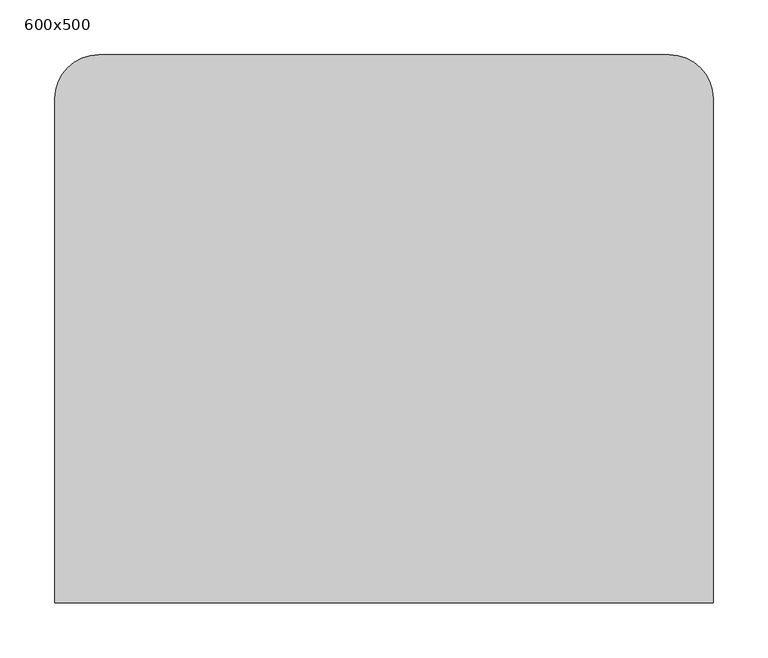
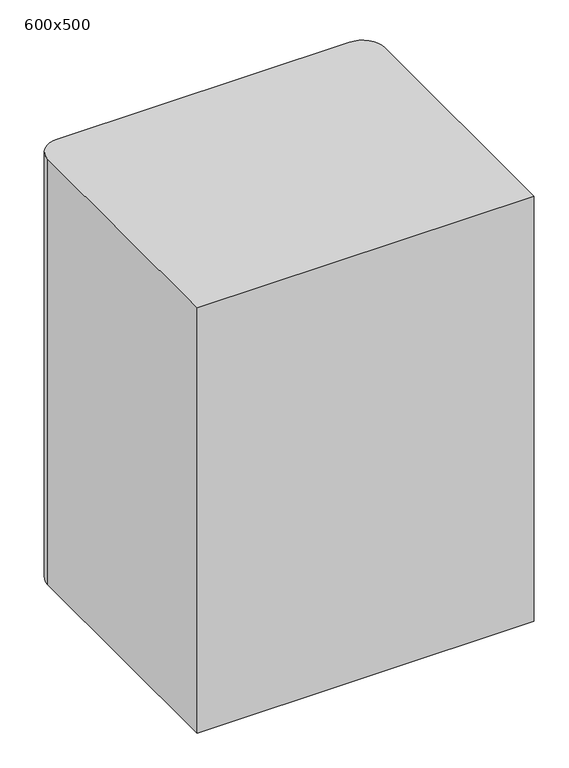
"""IFC4 building model written with IfcOpenShell, lengths in millimetres: flow terminal geometry, SP_раковина_LEG : 600x500."""

from ifc_helpers import new_model, si_unit, point, frame_2d, origin, origin_with_axes, place, context, project, spatial, polyline, circle_curve, trimmed, segment, composite_curve, outline, extrude, source, transform, mapped, element, save


def flow_terminal_600x500_7dece492(model_context):
    return source(origin(), model_context, "Body", "SweptSolid", [
        extrude(outline(composite_curve([segment(polyline([(300.0, 0.0), (-300.0, 0.0), (-300.0, 460.0)]), True, "CONTINUOUS"), segment(trimmed(circle_curve(frame_2d((-260.0, 460.0)), 40.0), [point((-300.0, 460.0))], [point((-260.0, 500.0))], False, "CARTESIAN"), True, "CONTINUOUS"), segment(polyline([(-260.0, 500.0), (260.0, 500.0)]), True, "CONTINUOUS"), segment(trimmed(circle_curve(frame_2d((260.0, 460.0)), 40.0), [point((260.0, 500.0))], [point((300.0, 460.0))], False, "CARTESIAN"), True, "CONTINUOUS"), segment(polyline([(300.0, 460.0), (300.0, 0.0)]), True, "CONTINUOUS")], self_intersect=False)), origin_with_axes(), (0.0, 0.0, 1.0), 800.0),
    ])


if __name__ == "__main__":
    model = new_model("IFC4")
    model_context = context("Model", 3, world=origin())
    ifc_project = project(units=[si_unit("LENGTHUNIT", "METRE", prefix="MILLI")], contexts=[model_context])
    site = spatial("IfcSite", under=ifc_project)
    building = spatial("IfcBuilding", under=site)
    placement = place(None, origin())
    flow_terminal_600x500_shape = flow_terminal_600x500_7dece492(model_context)
    element("IfcFlowTerminal", 1, ObjectType="SP_раковина_LEG : 600x500", at=placement, inside=building, context=model_context, shape_type="MappedRepresentation", body=[
        mapped(flow_terminal_600x500_shape, transform((0.0, 0.0, 0.0), x_axis=(1.0, 0.0, 0.0), y_axis=(0.0, 1.0, 0.0), z_axis=(0.0, 0.0, 1.0))),
    ])
    save(model, "model.ifc")
